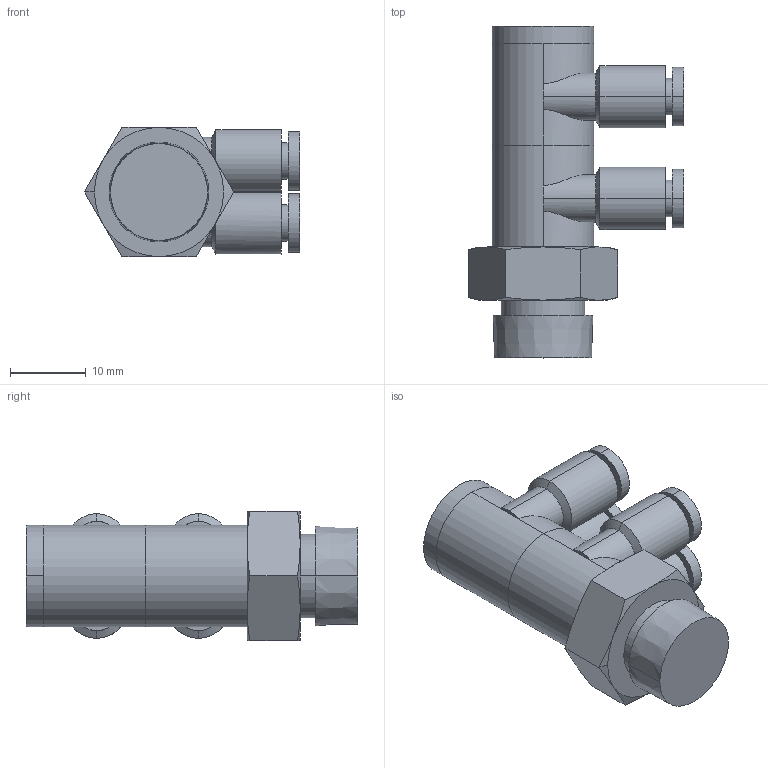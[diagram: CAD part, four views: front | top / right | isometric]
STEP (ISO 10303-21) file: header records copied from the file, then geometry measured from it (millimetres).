
FILE_DESCRIPTION (( 'STEP AP203' ), '1' );
FILE_NAME ('FZD04-02.STEP', '2020-05-11T14:45:19', ( '' ), ( '' ), 'SwSTEP 2.0', 'SolidWorks 2019', '' );
FILE_SCHEMA (( 'CONFIG_CONTROL_DESIGN' ));
Length unit declared in the file: millimetre
Products named in the file (1): FZD04-02
Bounding box: 28.32 x 43.7 x 17 mm (x, y, z)
Volume: 8624.2 mm3; surface area: 6918.7 mm2
Topology: 3 solids, 3 shells, 118 faces, 274 edges, 172 vertices
Faces by surface type: cylinder 52, plane 42, cone 24
Entity records: 4351 total; most frequent: CARTESIAN_POINT 1545, DIRECTION 592, ORIENTED_EDGE 548, EDGE_CURVE 274, AXIS2_PLACEMENT_3D 247, VERTEX_POINT 172, EDGE_LOOP 140, CIRCLE 128
